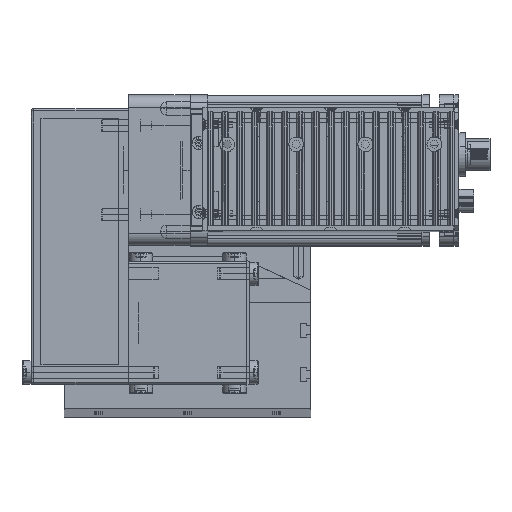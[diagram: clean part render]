
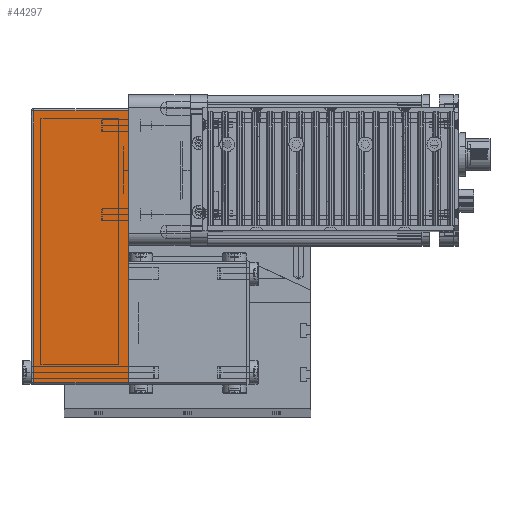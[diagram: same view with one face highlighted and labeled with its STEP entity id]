
A CAD part, top view. The second image highlights one B-rep face of the part: STEP entity #44297.
In plain terms, the highlighted planar face has unit normal (0, 0, 1) as drawn and (0, -1, 0) by its records, which use the part's own axes.
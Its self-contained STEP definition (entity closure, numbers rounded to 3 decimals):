
#21684 = DIRECTION ( 'NONE',  ( 0., 0., 1. ) ) ;
#21685 = VECTOR ( 'NONE', #21684, 1000. ) ;
#21686 = CARTESIAN_POINT ( 'NONE',  ( -49., -25., 39.5 ) ) ;
#21702 = LINE ( 'NONE', #21686, #21685 ) ;
#21734 = CARTESIAN_POINT ( 'NONE',  ( 61., -25., 0. ) ) ;
#21736 = CARTESIAN_POINT ( 'NONE',  ( 61., -25., 38.5 ) ) ;
#21753 = CARTESIAN_POINT ( 'NONE',  ( -49., -25., 0. ) ) ;
#21770 = CARTESIAN_POINT ( 'NONE',  ( -49., -25., 38.5 ) ) ;
#21824 = DIRECTION ( 'NONE',  ( 0., 0., -1. ) ) ;
#21825 = VECTOR ( 'NONE', #21824, 1000. ) ;
#21826 = CARTESIAN_POINT ( 'NONE',  ( 61., -25., 39.5 ) ) ;
#21829 = LINE ( 'NONE', #21826, #21825 ) ;
#21898 = CARTESIAN_POINT ( 'NONE',  ( -50., -25., 38.5 ) ) ;
#21899 = LINE ( 'NONE', #21898, #21991 ) ;
#21969 = DIRECTION ( 'NONE',  ( 1., 0., 0. ) ) ;
#21971 = DIRECTION ( 'NONE',  ( 0., 1., 0. ) ) ;
#21972 = CARTESIAN_POINT ( 'NONE',  ( -50., -25., 39.5 ) ) ;
#21986 = FACE_OUTER_BOUND ( 'NONE', #44308, .T. ) ;
#21991 = VECTOR ( 'NONE', #21969, 1000. ) ;
#21999 = CARTESIAN_POINT ( 'NONE',  ( -50., -25., 0. ) ) ;
#22000 = LINE ( 'NONE', #21999, #22054 ) ;
#22012 = DIRECTION ( 'NONE',  ( 0., 0., 1. ) ) ;
#22019 = AXIS2_PLACEMENT_3D ( 'NONE', #21972, #21971, #22012 ) ;
#22021 = PLANE ( 'NONE',  #22019 ) ;
#22053 = DIRECTION ( 'NONE',  ( 1., 0., 0. ) ) ;
#22054 = VECTOR ( 'NONE', #22053, 1000. ) ;
#44152 = EDGE_CURVE ( 'NONE', #44190, #44173, #21702, .T. ) ;
#44155 = VERTEX_POINT ( 'NONE', #21736 ) ;
#44162 = VERTEX_POINT ( 'NONE', #21734 ) ;
#44173 = VERTEX_POINT ( 'NONE', #21770 ) ;
#44190 = VERTEX_POINT ( 'NONE', #21753 ) ;
#44215 = EDGE_CURVE ( 'NONE', #44155, #44162, #21829, .T. ) ;
#44286 = ORIENTED_EDGE ( 'NONE', *, *, #44215, .F. ) ;
#44294 = EDGE_CURVE ( 'NONE', #44173, #44155, #21899, .T. ) ;
#44295 = ORIENTED_EDGE ( 'NONE', *, *, #44310, .T. ) ;
#44297 = ADVANCED_FACE ( 'NONE', ( #21986 ), #22021, .F. ) ;
#44299 = ORIENTED_EDGE ( 'NONE', *, *, #44152, .F. ) ;
#44308 = EDGE_LOOP ( 'NONE', ( #44299, #44295, #44286, #44358 ) ) ;
#44310 = EDGE_CURVE ( 'NONE', #44190, #44162, #22000, .T. ) ;
#44358 = ORIENTED_EDGE ( 'NONE', *, *, #44294, .F. ) ;
